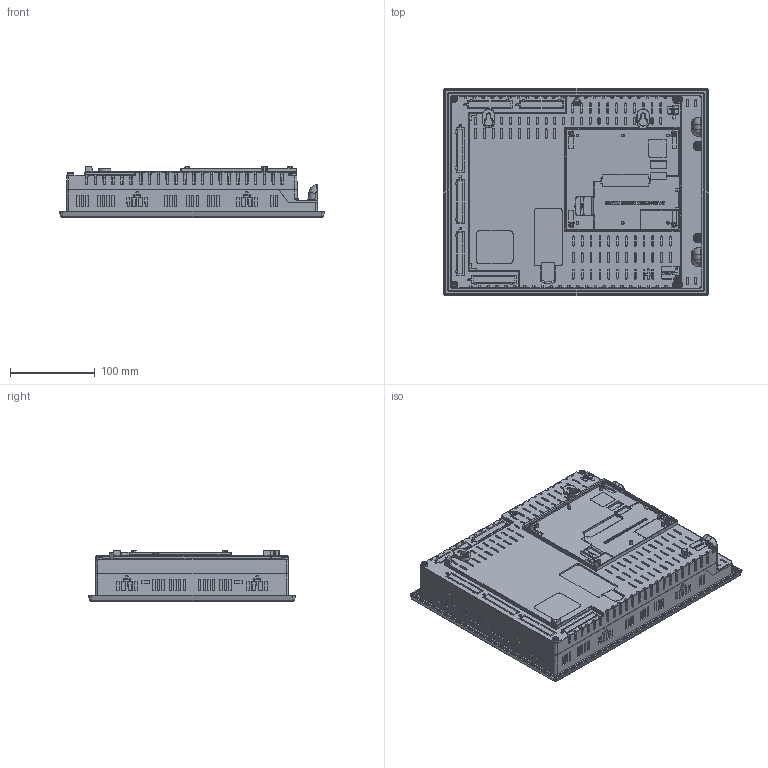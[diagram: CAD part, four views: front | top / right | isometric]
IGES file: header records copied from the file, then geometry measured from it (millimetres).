
Start section: SolidWorks IGES file using analytic representation for surfaces
Global section: file name: Z:\Products\V1210\CAD Files\3D\V1210-T20B.IGS; native system: SolidWorks 2009; preprocessor: SolidWorks 2009; author: baraki; date: 110629.080548; units: millimetre
Bounding box: 313.1 x 244.59 x 59.15 mm (x, y, z)
Surface area: 370717.9 mm2 (no closed solid volume)
Topology: 0 solids, 0 shells, 5765 faces, 42230 edges, 42199 vertices
Faces by surface type: bspline 4395, revolution 1370
